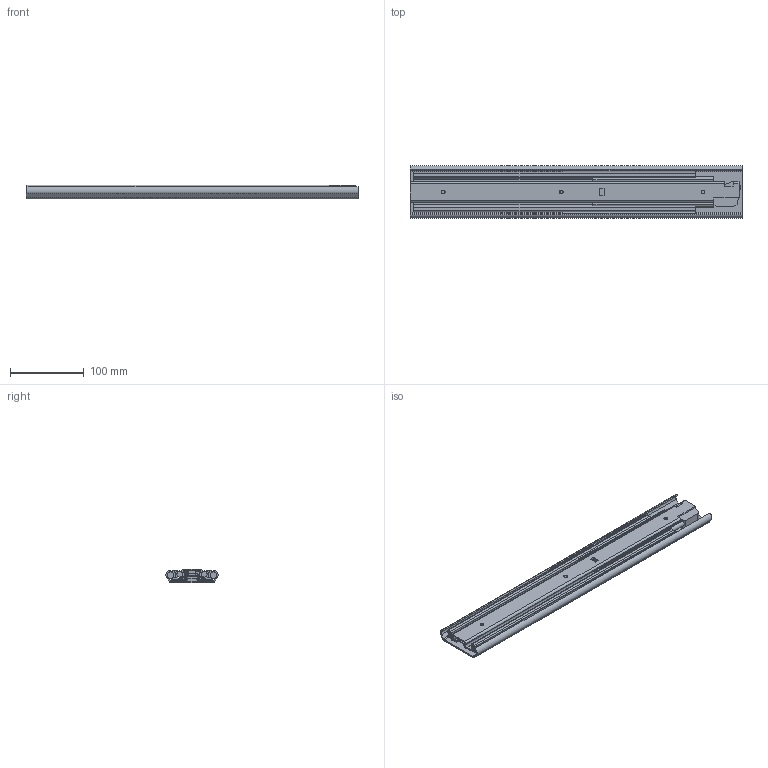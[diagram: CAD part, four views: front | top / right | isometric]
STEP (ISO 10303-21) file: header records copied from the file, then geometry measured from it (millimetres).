
FILE_DESCRIPTION( ( 'STEP AP203' ), '1' );
FILE_NAME( 'C:/Temp/Ganter_Step_05_03_2020/data/3_8/gn1432/Telescopic slide GN 1432-450-B-2-ZB (0).stp', '2020-03-12T15:26:35', ( 'License CC BY-ND 4.0' ), ( 'CADENAS' ), ' ', 'PARTsolutions', ' ' );
FILE_SCHEMA( ( 'CONFIG_CONTROL_DESIGN' ) );
Length unit declared in the file: millimetre
Products named in the file (4): Telescopic slide GN 1432-450-B-2-ZB (0); _Telescopic slide GN 1432-450-B-2-ZB (0)-1; _Telescopic slide GN 1432-450-B-2-ZB (0)-2; _Telescopic slide GN 1432-450-B-2-ZB (0)-3
Assembly tree (3 placements, depth 2):
  Telescopic slide GN 1432-450-B-2-ZB (0)
    _Telescopic slide GN 1432-450-B-2-ZB (0)-1
    _Telescopic slide GN 1432-450-B-2-ZB (0)-2
    _Telescopic slide GN 1432-450-B-2-ZB (0)-3
Bounding box: 450 x 70.88 x 18.4 mm (x, y, z)
Volume: 255926.3 mm3; surface area: 237195 mm2
Topology: 3 solids, 3 shells, 303 faces, 882 edges, 579 vertices
Faces by surface type: plane 179, cylinder 117, cone 7
Full cylindrical faces by diameter (mm): 5 x3, 6.5 x4, 11 x3
Entity records: 10108 total; most frequent: CARTESIAN_POINT 1765, ORIENTED_EDGE 1724, DIRECTION 1721, EDGE_CURVE 862, LINE 605, VECTOR 605, VERTEX_POINT 576, AXIS2_PLACEMENT_3D 558
